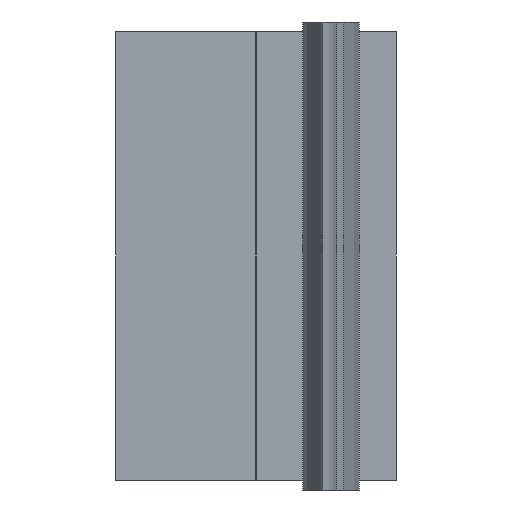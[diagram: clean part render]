
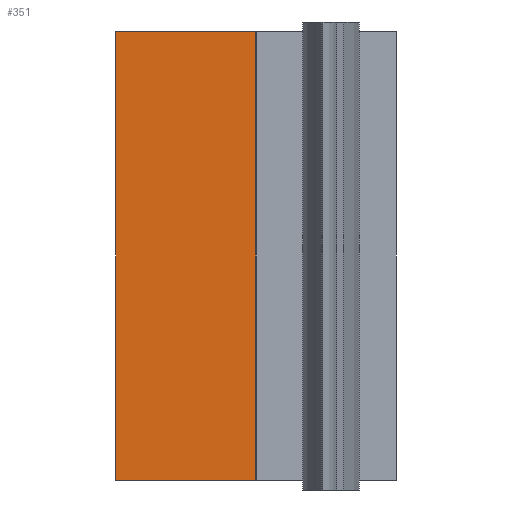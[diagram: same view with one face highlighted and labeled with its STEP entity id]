
A CAD part, left-side view. The second image highlights one B-rep face of the part: STEP entity #351.
In plain terms, the highlighted planar face has unit normal (-1, 0, 0).
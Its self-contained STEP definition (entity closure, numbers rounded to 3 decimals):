
#1 = EDGE_CURVE ( 'NONE', #154, #263, #337, .T. ) ;
#5 = CARTESIAN_POINT ( 'NONE',  ( -81.003, 30.01, -47.927 ) ) ;
#16 = EDGE_CURVE ( 'NONE', #406, #25, #380, .T. ) ;
#17 = CARTESIAN_POINT ( 'NONE',  ( -81.003, 60.01, 47.927 ) ) ;
#25 = VERTEX_POINT ( 'NONE', #5 ) ;
#26 = CARTESIAN_POINT ( 'NONE',  ( -81.003, 30.01, 47.927 ) ) ;
#32 = ORIENTED_EDGE ( 'NONE', *, *, #210, .F. ) ;
#41 = DIRECTION ( 'NONE',  ( 0., -1., 0. ) ) ;
#86 = DIRECTION ( 'NONE',  ( 0., -1., 0. ) ) ;
#104 = FACE_OUTER_BOUND ( 'NONE', #331, .T. ) ;
#119 = ORIENTED_EDGE ( 'NONE', *, *, #16, .T. ) ;
#134 = VECTOR ( 'NONE', #41, 1000. ) ;
#151 = DIRECTION ( 'NONE',  ( 0., 0., 1. ) ) ;
#154 = VERTEX_POINT ( 'NONE', #17 ) ;
#191 = CARTESIAN_POINT ( 'NONE',  ( -81.003, 60.01, -47.927 ) ) ;
#194 = LINE ( 'NONE', #403, #269 ) ;
#210 = EDGE_CURVE ( 'NONE', #406, #154, #396, .T. ) ;
#218 = CARTESIAN_POINT ( 'NONE',  ( -81.003, 60.01, 47.927 ) ) ;
#263 = VERTEX_POINT ( 'NONE', #26 ) ;
#269 = VECTOR ( 'NONE', #151, 1000. ) ;
#281 = CARTESIAN_POINT ( 'NONE',  ( -81.003, 60.01, -47.927 ) ) ;
#297 = VECTOR ( 'NONE', #435, 1000. ) ;
#300 = ORIENTED_EDGE ( 'NONE', *, *, #312, .T. ) ;
#307 = VECTOR ( 'NONE', #86, 1000. ) ;
#312 = EDGE_CURVE ( 'NONE', #25, #263, #194, .T. ) ;
#331 = EDGE_LOOP ( 'NONE', ( #300, #479, #32, #119 ) ) ;
#337 = LINE ( 'NONE', #218, #307 ) ;
#351 = ADVANCED_FACE ( 'NONE', ( #104 ), #370, .F. ) ;
#361 = DIRECTION ( 'NONE',  ( 0., 0., -1. ) ) ;
#370 = PLANE ( 'NONE',  #511 ) ;
#380 = LINE ( 'NONE', #391, #134 ) ;
#391 = CARTESIAN_POINT ( 'NONE',  ( -81.003, 60.01, -47.927 ) ) ;
#396 = LINE ( 'NONE', #515, #297 ) ;
#403 = CARTESIAN_POINT ( 'NONE',  ( -81.003, 30.01, -47.927 ) ) ;
#406 = VERTEX_POINT ( 'NONE', #281 ) ;
#435 = DIRECTION ( 'NONE',  ( 0., 0., 1. ) ) ;
#479 = ORIENTED_EDGE ( 'NONE', *, *, #1, .F. ) ;
#511 = AXIS2_PLACEMENT_3D ( 'NONE', #191, #530, #361 ) ;
#515 = CARTESIAN_POINT ( 'NONE',  ( -81.003, 60.01, -47.927 ) ) ;
#530 = DIRECTION ( 'NONE',  ( 1., 0., 0. ) ) ;
